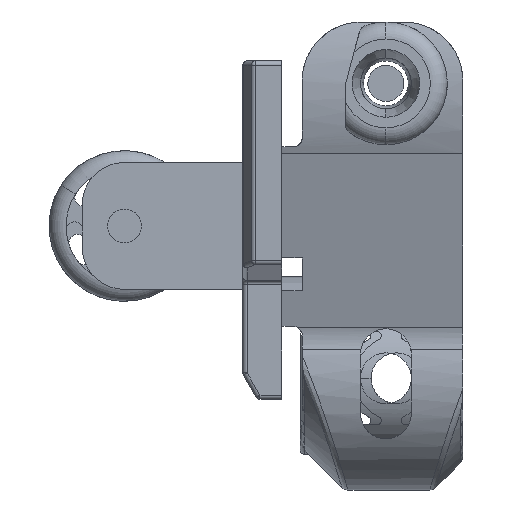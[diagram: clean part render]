
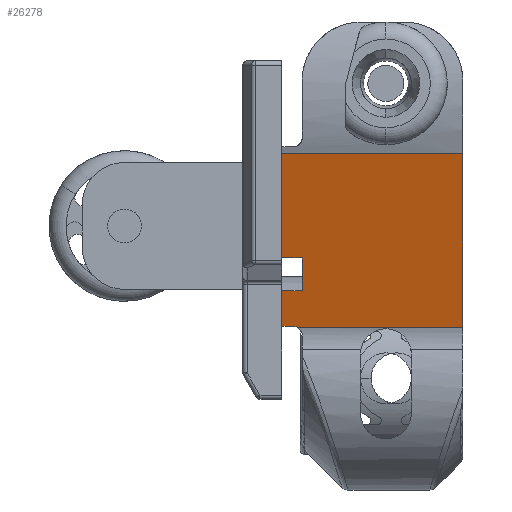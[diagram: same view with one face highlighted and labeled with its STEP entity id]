
A CAD part, left-side view. The second image highlights one B-rep face of the part: STEP entity #26278.
In plain terms, the highlighted planar face has unit normal (-0.962, 0, -0.274).
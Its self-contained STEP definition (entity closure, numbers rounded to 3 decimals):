
#350 = ORIENTED_EDGE ( 'NONE', *, *, #26510, .T. ) ;
#519 = VERTEX_POINT ( 'NONE', #4547 ) ;
#580 = VECTOR ( 'NONE', #3794, 1000. ) ;
#1559 = CARTESIAN_POINT ( 'NONE',  ( -27.043, 14.185, 9.129 ) ) ;
#1611 = EDGE_CURVE ( 'NONE', #519, #21569, #6164, .T. ) ;
#1702 = CARTESIAN_POINT ( 'NONE',  ( -22.429, -499983.415, -7.084 ) ) ;
#2521 = CARTESIAN_POINT ( 'NONE',  ( -22.429, 16.585, -7.084 ) ) ;
#2772 = ORIENTED_EDGE ( 'NONE', *, *, #5173, .T. ) ;
#2794 = CARTESIAN_POINT ( 'NONE',  ( -21.201, 14.726, -11.401 ) ) ;
#2951 = LINE ( 'NONE', #1559, #5874 ) ;
#3298 = VERTEX_POINT ( 'NONE', #9820 ) ;
#3445 = ORIENTED_EDGE ( 'NONE', *, *, #6655, .F. ) ;
#3794 = DIRECTION ( 'NONE',  ( 0., 1., 0. ) ) ;
#3867 = ORIENTED_EDGE ( 'NONE', *, *, #21881, .T. ) ;
#4215 = CARTESIAN_POINT ( 'NONE',  ( -21.201, 14.726, -11.401 ) ) ;
#4340 = ORIENTED_EDGE ( 'NONE', *, *, #8854, .F. ) ;
#4522 = VECTOR ( 'NONE', #23660, 1000. ) ;
#4547 = CARTESIAN_POINT ( 'NONE',  ( -27.043, -4.815, 9.129 ) ) ;
#4648 = CARTESIAN_POINT ( 'NONE',  ( -22.429, 16.585, -7.084 ) ) ;
#4879 = LINE ( 'NONE', #1702, #17645 ) ;
#5059 = ORIENTED_EDGE ( 'NONE', *, *, #11594, .F. ) ;
#5070 = CARTESIAN_POINT ( 'NONE',  ( -23.533, 14.185, -3.204 ) ) ;
#5173 = EDGE_CURVE ( 'NONE', #16107, #22802, #4879, .T. ) ;
#5214 = VECTOR ( 'NONE', #26399, 1000. ) ;
#5347 = EDGE_LOOP ( 'NONE', ( #3867, #14448, #3445, #5059, #10757, #350, #4340, #18968, #2772, #23611 ) ) ;
#5353 = LINE ( 'NONE', #12659, #11186 ) ;
#5585 = AXIS2_PLACEMENT_3D ( 'NONE', #15797, #7458, #15891 ) ;
#5874 = VECTOR ( 'NONE', #18196, 1000. ) ;
#5957 = CARTESIAN_POINT ( 'NONE',  ( -21.222, 14.869, -11.328 ) ) ;
#6164 = LINE ( 'NONE', #8253, #580 ) ;
#6345 = EDGE_CURVE ( 'NONE', #7897, #7299, #10648, .T. ) ;
#6655 = EDGE_CURVE ( 'NONE', #3298, #7299, #8409, .T. ) ;
#7299 = VERTEX_POINT ( 'NONE', #2794 ) ;
#7458 = DIRECTION ( 'NONE',  ( 0.962, 0., 0.274 ) ) ;
#7897 = VERTEX_POINT ( 'NONE', #14999 ) ;
#8117 = CARTESIAN_POINT ( 'NONE',  ( -27.043, 16.585, 9.129 ) ) ;
#8253 = CARTESIAN_POINT ( 'NONE',  ( -27.043, -4.815, 9.129 ) ) ;
#8262 = VECTOR ( 'NONE', #18628, 1000. ) ;
#8409 = LINE ( 'NONE', #24181, #9037 ) ;
#8854 = EDGE_CURVE ( 'NONE', #24270, #19836, #26013, .T. ) ;
#9037 = VECTOR ( 'NONE', #20110, 1000. ) ;
#9380 = LINE ( 'NONE', #17037, #4522 ) ;
#9662 = CARTESIAN_POINT ( 'NONE',  ( -22.429, 14.185, -7.084 ) ) ;
#9820 = CARTESIAN_POINT ( 'NONE',  ( -21.201, -4.815, -11.401 ) ) ;
#10648 =( BOUNDED_CURVE ( )  B_SPLINE_CURVE ( 3, ( #12239, #16773, #5957, #4215 ),
 .UNSPECIFIED., .F., .F. ) 
 B_SPLINE_CURVE_WITH_KNOTS ( ( 4, 4 ),
 ( 3.142, 3.618 ),
 .UNSPECIFIED. ) 
 CURVE ( )  GEOMETRIC_REPRESENTATION_ITEM ( )  RATIONAL_B_SPLINE_CURVE ( ( 1., 0.981, 0.981, 1. ) ) 
 REPRESENTATION_ITEM ( '' )  );
#10757 = ORIENTED_EDGE ( 'NONE', *, *, #1611, .T. ) ;
#11186 = VECTOR ( 'NONE', #21120, 1000. ) ;
#11399 = LINE ( 'NONE', #2521, #25906 ) ;
#11594 = EDGE_CURVE ( 'NONE', #519, #3298, #5353, .T. ) ;
#12239 = CARTESIAN_POINT ( 'NONE',  ( -21.233, 15.185, -11.29 ) ) ;
#12659 = CARTESIAN_POINT ( 'NONE',  ( -27.043, -4.815, 9.129 ) ) ;
#13286 = CARTESIAN_POINT ( 'NONE',  ( -23.533, 16.585, -3.204 ) ) ;
#14448 = ORIENTED_EDGE ( 'NONE', *, *, #6345, .T. ) ;
#14999 = CARTESIAN_POINT ( 'NONE',  ( -21.233, 15.185, -11.29 ) ) ;
#15797 = CARTESIAN_POINT ( 'NONE',  ( -22.429, -499983.415, -7.084 ) ) ;
#15891 = DIRECTION ( 'NONE',  ( 0.274, 0., -0.962 ) ) ;
#16107 = VERTEX_POINT ( 'NONE', #9662 ) ;
#16773 = CARTESIAN_POINT ( 'NONE',  ( -21.233, 15.024, -11.29 ) ) ;
#16847 = EDGE_CURVE ( 'NONE', #22802, #25396, #11399, .T. ) ;
#17037 = CARTESIAN_POINT ( 'NONE',  ( -27.043, 16.585, 9.129 ) ) ;
#17130 = DIRECTION ( 'NONE',  ( 0.274, 0., -0.962 ) ) ;
#17645 = VECTOR ( 'NONE', #24798, 1000. ) ;
#18196 = DIRECTION ( 'NONE',  ( 0.274, 0., -0.962 ) ) ;
#18593 = CARTESIAN_POINT ( 'NONE',  ( -21.233, 16.585, -11.29 ) ) ;
#18628 = DIRECTION ( 'NONE',  ( 0., 1., 0. ) ) ;
#18968 = ORIENTED_EDGE ( 'NONE', *, *, #20429, .T. ) ;
#19836 = VERTEX_POINT ( 'NONE', #13286 ) ;
#19939 = LINE ( 'NONE', #24376, #5214 ) ;
#20110 = DIRECTION ( 'NONE',  ( 0., 1., 0. ) ) ;
#20429 = EDGE_CURVE ( 'NONE', #24270, #16107, #2951, .T. ) ;
#21120 = DIRECTION ( 'NONE',  ( 0.274, 0., -0.962 ) ) ;
#21569 = VERTEX_POINT ( 'NONE', #8117 ) ;
#21881 = EDGE_CURVE ( 'NONE', #25396, #7897, #19939, .T. ) ;
#22802 = VERTEX_POINT ( 'NONE', #4648 ) ;
#23611 = ORIENTED_EDGE ( 'NONE', *, *, #16847, .T. ) ;
#23660 = DIRECTION ( 'NONE',  ( 0.274, 0., -0.962 ) ) ;
#24181 = CARTESIAN_POINT ( 'NONE',  ( -21.201, -499983.415, -11.401 ) ) ;
#24270 = VERTEX_POINT ( 'NONE', #5070 ) ;
#24376 = CARTESIAN_POINT ( 'NONE',  ( -21.233, -499983.415, -11.29 ) ) ;
#24798 = DIRECTION ( 'NONE',  ( 0., 1., 0. ) ) ;
#25001 = CARTESIAN_POINT ( 'NONE',  ( -23.533, -499983.415, -3.204 ) ) ;
#25396 = VERTEX_POINT ( 'NONE', #18593 ) ;
#25572 = FACE_OUTER_BOUND ( 'NONE', #5347, .T. ) ;
#25906 = VECTOR ( 'NONE', #17130, 1000. ) ;
#26013 = LINE ( 'NONE', #25001, #8262 ) ;
#26278 = ADVANCED_FACE ( 'NONE', ( #25572 ), #26660, .F. ) ;
#26399 = DIRECTION ( 'NONE',  ( 0., -1., 0. ) ) ;
#26510 = EDGE_CURVE ( 'NONE', #21569, #19836, #9380, .T. ) ;
#26660 = PLANE ( 'NONE',  #5585 ) ;
